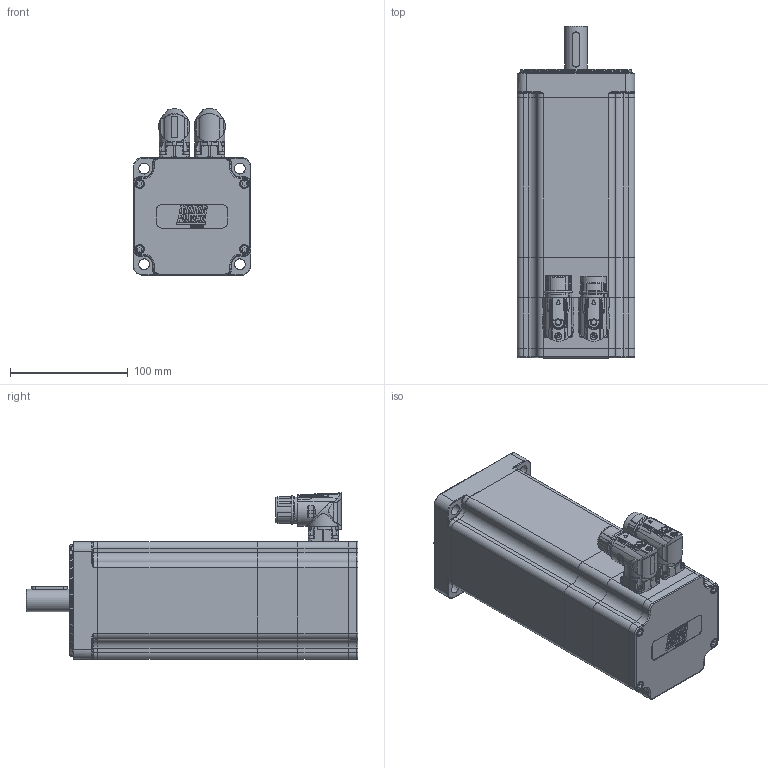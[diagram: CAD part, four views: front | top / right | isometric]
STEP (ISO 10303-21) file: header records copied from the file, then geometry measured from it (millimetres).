
FILE_DESCRIPTION(/* description */ ('Unknown'),/* implementation_level */ '2;1');
FILE_NAME(/* name */ 'TC4-100.4B.XX.X.3.M1.1.1.G2.31.80 Q0BQ10',/* time_stamp */ '2026-03-04T14:59:47+01:00',/* author */ ('Unknown'),/* organization */ ('Unknown'),/* preprocessor_version */ 'ST-DEVELOPER v19.4',/* originating_system */ 'Solid Edge',/* authorisation */ 'Unknown');
FILE_SCHEMA (('AUTOMOTIVE_DESIGN {1 0 10303 214 3 1 1}'));
Products named in the file (14): Q0BQ10 4B FRENO M1 VUOTO; 003107003287; 005911000185; 003151003169; 005119000312; 003103040222; 003155002223; 005113000500; 005911000208; 007117000456; 007117000454; 003003200461; 003251040721; 005911000252
Assembly tree (26 placements, depth 2):
  Q0BQ10 4B FRENO M1 VUOTO
    003107003287
    005911000185  x8
    003151003169
    005119000312
    003103040222
    003155002223
    005113000500
    005911000208  x4
    007117000456
    007117000454
    003003200461
    003251040721
    005911000252  x4
Bounding box: 100 x 282 x 141.5 mm (x, y, z)
Volume: 841285.9 mm3; surface area: 307354.1 mm2
Topology: 28 solids, 28 shells, 2264 faces, 5666 edges, 3625 vertices
Faces by surface type: plane 985, cylinder 541, cone 286, bspline 271, torus 108, sphere 73
Full cylindrical faces by diameter (mm): 0.5 x1, 1 x21, 1.2 x17, 1.4 x4, 2 x4, 2.013 x12, 2.459 x2, 2.5 x8, 2.8 x4, 3 x12, 3.2 x1, 3.242 x46, 3.3 x1, 4 x9, 4.5 x18, 4.7 x8, 4.917 x1, 5.5 x2, 5.8 x1, 5.9 x2, 6 x1, 6.4 x1, 6.8 x1, 7 x8, 8 x10, 8.004 x4, 10 x1, 15.2 x1, 16 x1, 16.99 x1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
Entity records: 80477 total; most frequent: CARTESIAN_POINT 21232, ORIENTED_EDGE 9290, DIRECTION 8831, EDGE_CURVE 4645, AXIS2_PLACEMENT_3D 3416, VERTEX_POINT 3228, FACE_BOUND 2773, EDGE_LOOP 2741
